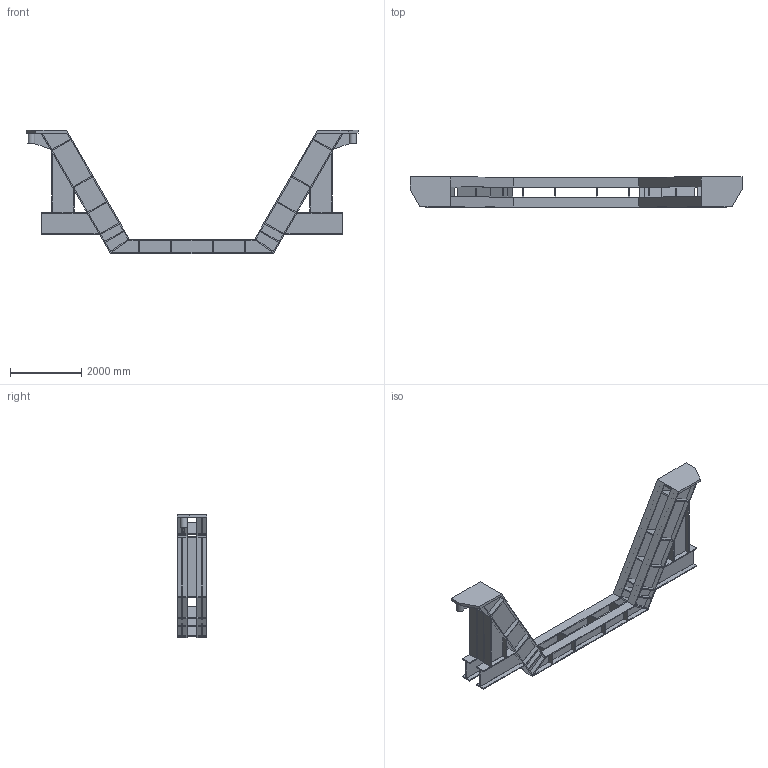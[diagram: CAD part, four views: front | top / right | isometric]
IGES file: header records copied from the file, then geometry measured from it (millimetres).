
Start section:  PTC IGES file: fr_cradle.igs
Global section: file name: fr_cradle.igs; native system: Pro/ENGINEER by Parametric Technology Corporation; preprocessor: 1999260; author: oshatz; organization: Unknown; date: 000922.101440; units: millimetre
Bounding box: 9311.2 x 840 x 3450.4 mm (x, y, z)
Surface area: 94559022.4 mm2 (no closed solid volume)
Topology: 0 solids, 0 shells, 484 faces, 2588 edges, 2588 vertices
Faces by surface type: bspline 480, revolution 4
